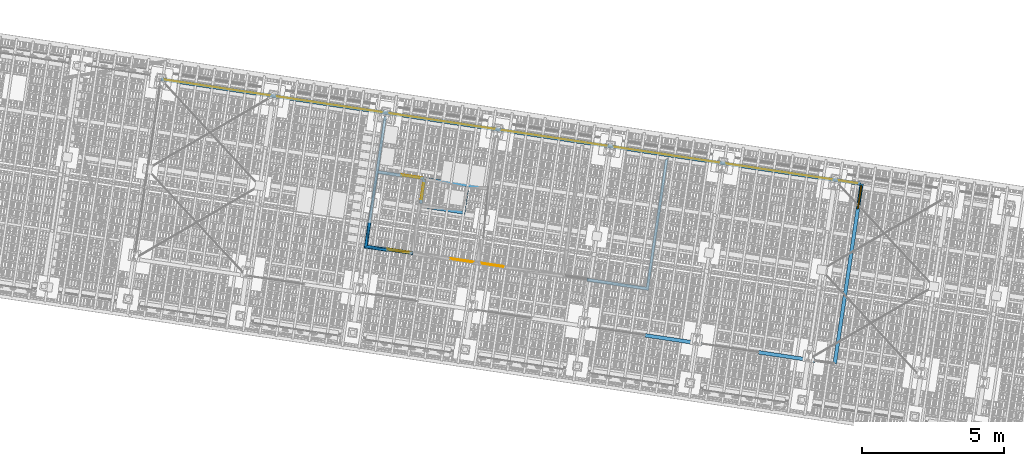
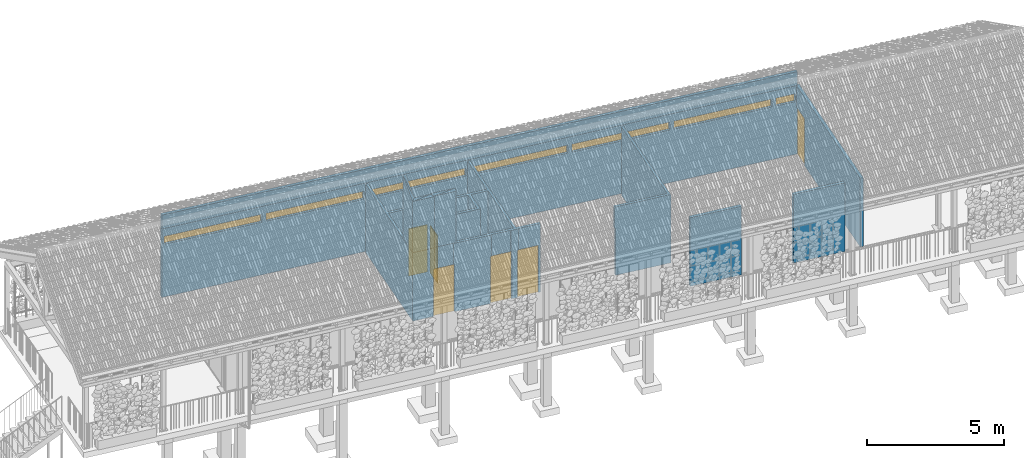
# One storey, part 122 of 131: 14 walls, 7 windows, 6 doors, 17 openings.
"""IFC4 building model written with IfcOpenShell, lengths in metres."""

from ifc_helpers import new_model, si_unit, direction, frame, origin_with_axes, place, context, subcontext, project, spatial, polyline, outline, extrude, polygons, material, layer, layer_set, constituent, constituent_set, element, fill, save


model = new_model("IFC4")

# Units and contexts
model_context = context("Model", 3, precision=1e-05, world=origin_with_axes(), true_north=direction((0.0, 1.0)))
body_context = subcontext(model_context, "Body", "Model", "MODEL_VIEW")
ifc_project = project(units=[si_unit("VOLUMEUNIT", "CUBIC_METRE"), si_unit("LENGTHUNIT", "METRE"), si_unit("AREAUNIT", "SQUARE_METRE")], contexts=[model_context])

# Site, building, storey
site_placement = place(None, origin_with_axes())
site = spatial("IfcSite", under=ifc_project, at=site_placement, Name="Lares · Rua das Mercês · artigo 4771")
building_placement = place(site_placement, frame((15.0, 9.7, 15.8), z_axis=(0.0, 0.0, 1.0), x_axis=(0.989015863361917, -0.147809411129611, 0.0)))
building = spatial("IfcBuilding", under=site, at=building_placement, Name="Casa Sobreposta")
storey_placement = place(building_placement, origin_with_axes())
storey = spatial("IfcBuildingStorey", under=building, at=storey_placement, Name="00 · Habitação e estacionamento", Elevation=15.8)

# Wall, openings, doors
ifc_material_1 = material(Name="OSB", Category="wood")
ifc_constituent_1 = constituent(ifc_material_1, Name="osb")
ifc_material_2 = material(Name="Lã mineral / Mineralwolle 2", Category="mineral wool")
ifc_constituent_2 = constituent(ifc_material_2, Name="wool")
ifc_constituent_set_1 = constituent_set(constituents=[ifc_constituent_1, ifc_constituent_2], Name="OSB22 / lã mineral / OSB22")
wall_1_placement = place(storey_placement, origin_with_axes())
wall_1 = element("IfcWall", 1, at=wall_1_placement, inside=storey, material=ifc_constituent_set_1, Name="Divisória 1 · OSB 22 mm nas duas faces", context=body_context, shape_type="SweptSolid", body=[
    extrude(outline(polyline([(8.05999999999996, 6.27299999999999), (8.05999999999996, 4.35299999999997), (8.80454037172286, 4.35299999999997), (8.80454322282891, 4.37255471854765), (9.67462900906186, 4.37242785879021), (9.67461809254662, 4.29755537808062), (9.74955631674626, 4.29756574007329), (9.74967661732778, 3.42754853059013), (9.63967661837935, 3.4275333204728), (9.63956117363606, 4.26243297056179), (8.90999999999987, 4.26253934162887), (8.90999999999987, 4.24299999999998), (8.05999999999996, 4.24299999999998), (8.05999999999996, 1.68999999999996), (8.70456930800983, 1.68999999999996), (8.70457262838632, 1.71008556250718), (9.6746647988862, 1.70992519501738), (9.67464661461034, 1.59992519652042), (8.80999999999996, 1.60006813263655), (8.80999999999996, 1.57999999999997), (7.96000000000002, 1.57999999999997), (7.96000000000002, 6.27299999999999), (8.05999999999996, 6.27299999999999)]), holes=[polyline([(7.98200000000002, 1.60199999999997), (8.78799999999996, 1.60199999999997), (8.78799999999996, 1.62207176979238), (9.65265025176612, 1.62192883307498), (9.65266116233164, 1.68792883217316), (8.72656899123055, 1.68808192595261), (8.72656567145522, 1.66799999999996), (8.03799999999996, 1.66799999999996), (8.03799999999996, 4.26499999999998), (8.88799999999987, 4.26499999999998), (8.88799999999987, 4.28454254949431), (9.65261617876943, 4.28443106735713), (9.65262580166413, 4.35043106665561), (8.8265400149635, 4.35055151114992), (8.82653716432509, 4.33099999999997), (8.03799999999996, 4.33099999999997), (8.03799999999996, 6.25099999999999), (7.98200000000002, 6.25099999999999), (7.98200000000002, 1.60199999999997)]), polyline([(9.66167357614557, 3.44953636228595), (9.72767357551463, 3.44954548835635), (9.72755935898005, 4.27556269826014), (9.661559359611, 4.27555357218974), (9.66167357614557, 3.44953636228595)])]), origin_with_axes(), (0.0, 0.0, 1.0), 3.05),
    extrude(outline(polyline([(7.98200000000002, 6.25099999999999), (8.03799999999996, 6.25099999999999), (8.03799999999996, 4.33099999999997), (8.82653716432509, 4.33099999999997), (8.8265400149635, 4.35055151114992), (9.65262580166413, 4.35043106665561), (9.65261617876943, 4.28443106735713), (8.88799999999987, 4.28454254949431), (8.88799999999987, 4.26499999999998), (8.03799999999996, 4.26499999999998), (8.03799999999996, 1.66799999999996), (8.72656567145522, 1.66799999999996), (8.72656899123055, 1.68808192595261), (9.65266116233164, 1.68792883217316), (9.65265025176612, 1.62192883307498), (8.78799999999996, 1.62207176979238), (8.78799999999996, 1.60199999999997), (7.98200000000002, 1.60199999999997), (7.98200000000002, 6.25099999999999)])), origin_with_axes(), (0.0, 0.0, 1.0), 3.05),
    extrude(outline(polyline([(9.661559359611, 4.27555357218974), (9.72755935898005, 4.27556269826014), (9.72767357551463, 3.44954548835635), (9.66167357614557, 3.44953636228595), (9.661559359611, 4.27555357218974)])), origin_with_axes(), (0.0, 0.0, 1.0), 3.05),
])
opening_1_placement = place(wall_1_placement, origin_with_axes())
opening_1 = element("IfcOpeningElement", 2, at=opening_1_placement, cuts=wall_1, PredefinedType="OPENING", context=body_context, shape_type="SweptSolid", body=[
    extrude(outline(polyline([(8.87451187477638, 4.15754451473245), (8.87455853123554, 4.47754451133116), (9.60464431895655, 4.4774380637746), (9.60459766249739, 4.15743806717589), (8.87451187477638, 4.15754451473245)])), origin_with_axes(), (0.0, 0.0, 1.0), 2.1),
])
opening_2_placement = place(wall_1_placement, origin_with_axes())
opening_2 = element("IfcOpeningElement", 3, at=opening_2_placement, cuts=wall_1, PredefinedType="OPENING", context=body_context, shape_type="SweptSolid", body=[
    extrude(outline(polyline([(8.77453708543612, 1.49507399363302), (8.77458998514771, 1.81507398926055), (9.60468215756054, 1.81493676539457), (9.60462925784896, 1.49493676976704), (8.77453708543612, 1.49507399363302)])), origin_with_axes(), (0.0, 0.0, 1.0), 2.1),
])
opening_3_placement = place(wall_1_placement, origin_with_axes())
opening_3 = element("IfcOpeningElement", 4, at=opening_3_placement, cuts=wall_1, PredefinedType="OPENING", context=body_context, shape_type="SweptSolid", body=[
    extrude(outline(polyline([(9.85466693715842, 3.49756304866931), (9.53466694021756, 3.49751880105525), (9.5345659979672, 4.22753601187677), (9.85456599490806, 4.22758025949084), (9.85466693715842, 3.49756304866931)])), origin_with_axes(), (0.0, 0.0, 1.0), 2.1),
])
door_1_placement = place(storey_placement, origin_with_axes())
door_1 = element("IfcDoor", 5, at=door_1_placement, inside=storey, material=ifc_material_1, Name="Porta interior 3", OperationType="SINGLE_SWING_LEFT", OverallHeight=2.1, OverallWidth=0.730085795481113, PredefinedType="DOOR", context=body_context, shape_type="SweptSolid", body=[
    extrude(outline(polyline([(8.87453265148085, 4.30004451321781), (8.87453775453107, 4.3350445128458), (9.60462354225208, 4.33493806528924), (9.60461843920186, 4.29993806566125), (8.87453265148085, 4.30004451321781)])), origin_with_axes(), (0.0, 0.0, 1.0), 2.1),
])
fill(opening_1, door_1)
door_2_placement = place(storey_placement, origin_with_axes())
door_2 = element("IfcDoor", 6, at=door_2_placement, inside=storey, material=ifc_material_1, Name="Porta interior 4", OperationType="SINGLE_SWING_LEFT", OverallHeight=2.1, OverallWidth=0.830092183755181, PredefinedType="DOOR", context=body_context, shape_type="SweptSolid", body=[
    extrude(outline(polyline([(8.77456064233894, 1.6375739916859), (8.7745664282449, 1.67257399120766), (9.60465860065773, 1.67243676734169), (9.60465281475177, 1.63743676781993), (8.77456064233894, 1.6375739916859)])), origin_with_axes(), (0.0, 0.0, 1.0), 2.1),
])
fill(opening_2, door_2)
door_3_placement = place(storey_placement, origin_with_axes())
door_3 = element("IfcDoor", 7, at=door_3_placement, inside=storey, material=ifc_material_1, Name="Porta interior 6", OperationType="SINGLE_SWING_LEFT", OverallHeight=2.1, OverallWidth=0.730017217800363, PredefinedType="DOOR", context=body_context, shape_type="SweptSolid", body=[
    extrude(outline(polyline([(9.71216693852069, 3.49754334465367), (9.67716693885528, 3.49753850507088), (9.67706599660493, 4.22755571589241), (9.71206599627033, 4.2275605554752), (9.71216693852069, 3.49754334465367)])), origin_with_axes(), (0.0, 0.0, 1.0), 2.1),
])
fill(opening_3, door_3)

ifc_constituent_3 = constituent(ifc_material_1, Name="osb")
ifc_constituent_4 = constituent(ifc_material_2, Name="wool")
ifc_constituent_set_2 = constituent_set(constituents=[ifc_constituent_3, ifc_constituent_4], Name="OSB22 / lã mineral / OSB22")
wall_2_placement = place(storey_placement, origin_with_axes())
wall_2 = element("IfcWall", 8, at=wall_2_placement, inside=storey, material=ifc_constituent_set_2, Name="Divisória 2 · OSB 22 mm nas duas faces", context=body_context, shape_type="SweptSolid", body=[
    extrude(outline(polyline([(9.72999999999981, 3.383), (11.1799999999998, 3.383), (11.1799999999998, 4.24299999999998), (9.72999999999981, 4.24299999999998), (9.72999999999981, 4.19299999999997), (9.61999999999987, 4.19299999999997), (9.61999999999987, 4.24299999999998), (9.56999999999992, 4.24299999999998), (9.56999999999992, 4.35299999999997), (11.96, 4.35299999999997), (11.96, 6.27299999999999), (12.06, 6.27299999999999), (12.06, 1.70993390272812), (12.9746138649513, 1.7100856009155), (12.974632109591, 1.60008560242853), (12.1099999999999, 1.59994219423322), (12.1099999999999, 1.57999999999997), (11.8099999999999, 1.57999999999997), (11.8099999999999, 1.59995696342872), (11.05, 1.60006879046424), (11.05, 1.57999999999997), (9.56999999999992, 1.57999999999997), (9.56999999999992, 1.68999999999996), (9.61999999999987, 1.68999999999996), (9.61999999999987, 3.53299999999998), (9.72999999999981, 3.53299999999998), (9.72999999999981, 3.383)]), holes=[polyline([(9.64199999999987, 3.51099999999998), (9.64199999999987, 1.66799999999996), (9.59199999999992, 1.66799999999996), (9.59199999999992, 1.60199999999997), (11.028, 1.60199999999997), (11.028, 1.62207202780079), (11.8319999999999, 1.62195372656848), (11.8319999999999, 1.60199999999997), (12.0879999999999, 1.60199999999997), (12.0879999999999, 1.62193854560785), (12.9526284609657, 1.62208195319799), (12.9526175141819, 1.68808195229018), (12.038, 1.68793025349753), (12.038, 6.25099999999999), (11.982, 6.25099999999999), (11.982, 4.33099999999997), (9.59199999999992, 4.33099999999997), (9.59199999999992, 4.26499999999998), (9.64199999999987, 4.26499999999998), (9.64199999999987, 4.21499999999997), (9.70799999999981, 4.21499999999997), (9.70799999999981, 4.26499999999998), (11.2019999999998, 4.26499999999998), (11.2019999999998, 3.361), (9.70799999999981, 3.361), (9.70799999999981, 3.51099999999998), (9.64199999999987, 3.51099999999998)])]), origin_with_axes(), (0.0, 0.0, 1.0), 3.05),
    extrude(outline(polyline([(10.9666589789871, 1.66799999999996), (9.70799999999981, 1.66799999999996), (9.70799999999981, 3.29500000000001), (11.268, 3.29500000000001), (11.268, 4.26499999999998), (11.982, 4.26499999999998), (11.982, 1.66799999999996), (11.892736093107, 1.66799999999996), (11.8927390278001, 1.68794479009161), (10.9666619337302, 1.68808105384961), (10.9666589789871, 1.66799999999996)]), holes=[polyline([(11.96, 4.24299999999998), (11.29, 4.24299999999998), (11.29, 3.27300000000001), (9.72999999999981, 3.27300000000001), (9.72999999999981, 1.68999999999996), (10.9446622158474, 1.68999999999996), (10.9446651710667, 1.71008429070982), (11.9147422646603, 1.70994155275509), (11.9147393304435, 1.68999999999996), (11.96, 1.68999999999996), (11.96, 4.24299999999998)])]), origin_with_axes(), (0.0, 0.0, 1.0), 3.05),
    extrude(outline(polyline([(9.70799999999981, 3.51099999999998), (9.70799999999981, 3.361), (11.2019999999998, 3.361), (11.2019999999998, 4.26499999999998), (9.70799999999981, 4.26499999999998), (9.70799999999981, 4.21499999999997), (9.64199999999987, 4.21499999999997), (9.64199999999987, 4.26499999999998), (9.59199999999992, 4.26499999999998), (9.59199999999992, 4.33099999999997), (11.982, 4.33099999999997), (11.982, 6.25099999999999), (12.038, 6.25099999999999), (12.038, 1.68793025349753), (12.9526175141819, 1.68808195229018), (12.9526284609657, 1.62208195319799), (12.0879999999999, 1.62193854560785), (12.0879999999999, 1.60199999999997), (11.8319999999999, 1.60199999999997), (11.8319999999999, 1.62195372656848), (11.028, 1.62207202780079), (11.028, 1.60199999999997), (9.59199999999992, 1.60199999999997), (9.59199999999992, 1.66799999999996), (9.64199999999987, 1.66799999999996), (9.64199999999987, 3.51099999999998), (9.70799999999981, 3.51099999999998)]), holes=[polyline([(10.9666619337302, 1.68808105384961), (11.8927390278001, 1.68794479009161), (11.892736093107, 1.66799999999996), (11.982, 1.66799999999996), (11.982, 4.26499999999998), (11.268, 4.26499999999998), (11.268, 3.29500000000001), (9.70799999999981, 3.29500000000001), (9.70799999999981, 1.66799999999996), (10.9666589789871, 1.66799999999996), (10.9666619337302, 1.68808105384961)])]), origin_with_axes(), (0.0, 0.0, 1.0), 3.05),
])
opening_4_placement = place(wall_2_placement, origin_with_axes())
opening_4 = element("IfcOpeningElement", 9, at=opening_4_placement, cuts=wall_2, PredefinedType="OPENING", context=body_context, shape_type="SweptSolid", body=[
    extrude(outline(polyline([(12.9045964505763, 1.81507398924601), (12.9046495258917, 1.49507399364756), (12.0745568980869, 1.49493631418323), (12.0745038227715, 1.81493630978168), (12.9045964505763, 1.81507398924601)])), origin_with_axes(), (0.0, 0.0, 1.0), 2.1),
])
opening_5_placement = place(wall_2_placement, origin_with_axes())
element("IfcOpeningElement", 10, at=opening_5_placement, cuts=wall_2, PredefinedType="OPENING", context=body_context, shape_type="SweptSolid", body=[
    extrude(outline(polyline([(8.87451187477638, 4.15754451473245), (8.87455853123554, 4.47754451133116), (9.60464431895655, 4.4774380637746), (9.60459766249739, 4.15743806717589), (8.87451187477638, 4.15754451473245)])), origin_with_axes(), (0.0, 0.0, 1.0), 2.1),
])
opening_6_placement = place(wall_2_placement, origin_with_axes())
element("IfcOpeningElement", 11, at=opening_6_placement, cuts=wall_2, PredefinedType="OPENING", context=body_context, shape_type="SweptSolid", body=[
    extrude(outline(polyline([(8.77453708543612, 1.49507399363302), (8.77458998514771, 1.81507398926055), (9.60468215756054, 1.81493676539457), (9.60462925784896, 1.49493676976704), (8.77453708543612, 1.49507399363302)])), origin_with_axes(), (0.0, 0.0, 1.0), 2.1),
])
opening_7_placement = place(wall_2_placement, origin_with_axes())
opening_7 = element("IfcOpeningElement", 12, at=opening_7_placement, cuts=wall_2, Name="Vão porta interior 5.1", PredefinedType="OPENING", context=body_context, shape_type="SweptSolid", body=[
    extrude(outline(polyline([(11.0146335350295, 1.49507399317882), (11.0146806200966, 1.81507398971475), (11.8447577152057, 1.81495185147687), (11.8447106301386, 1.49495185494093), (11.0146335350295, 1.49507399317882)])), origin_with_axes(), (0.0, 0.0, 1.0), 2.1),
])
opening_8_placement = place(wall_2_placement, origin_with_axes())
element("IfcOpeningElement", 13, at=opening_8_placement, cuts=wall_2, PredefinedType="OPENING", context=body_context, shape_type="SweptSolid", body=[
    extrude(outline(polyline([(9.85466693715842, 3.49756304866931), (9.53466694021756, 3.49751880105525), (9.5345659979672, 4.22753601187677), (9.85456599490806, 4.22758025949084), (9.85466693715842, 3.49756304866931)])), origin_with_axes(), (0.0, 0.0, 1.0), 2.1),
])
door_4_placement = place(storey_placement, origin_with_axes())
door_4 = element("IfcDoor", 14, at=door_4_placement, inside=storey, material=ifc_material_1, Name="Porta interior 2", OperationType="SINGLE_SWING_LEFT", OverallHeight=2.1, OverallWidth=0.830092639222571, PredefinedType="DOOR", context=body_context, shape_type="SweptSolid", body=[
    extrude(outline(polyline([(12.9046200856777, 1.67257399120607), (12.9046258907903, 1.63757399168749), (12.0745332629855, 1.63743631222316), (12.0745274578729, 1.67243631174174), (12.9046200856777, 1.67257399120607)])), origin_with_axes(), (0.0, 0.0, 1.0), 2.1),
])
fill(opening_4, door_4)
door_5_placement = place(storey_placement, origin_with_axes())
door_5 = element("IfcDoor", 15, at=door_5_placement, inside=storey, material=ifc_material_1, Name="Porta interior 5", OperationType="SINGLE_SWING_LEFT", OverallHeight=2.1, OverallWidth=0.830077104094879, PredefinedType="DOOR", context=body_context, shape_type="SweptSolid", body=[
    extrude(outline(polyline([(11.0146545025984, 1.63757399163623), (11.0146596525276, 1.67257399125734), (11.8447367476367, 1.67245185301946), (11.8447315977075, 1.63745185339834), (11.0146545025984, 1.63757399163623)])), origin_with_axes(), (0.0, 0.0, 1.0), 2.1),
])
fill(opening_7, door_5)

# Wall, opening
ifc_constituent_5 = constituent(ifc_material_1, Name="osb")
ifc_constituent_6 = constituent(ifc_material_2, Name="wool")
ifc_constituent_set_3 = constituent_set(constituents=[ifc_constituent_5, ifc_constituent_6], Name="OSB22 / lã mineral / OSB22")
wall_3_placement = place(storey_placement, origin_with_axes())
wall_3 = element("IfcWall", 16, at=wall_3_placement, inside=storey, material=ifc_constituent_set_3, Name="Divisória 4 · OSB 22 mm nas duas faces", context=body_context, shape_type="SweptSolid", body=[
    extrude(outline(polyline([(17.98, 6.21236749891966), (18.0799999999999, 6.29570083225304), (18.0799999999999, 1.57999999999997), (15.8799999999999, 1.57999999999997), (15.8799999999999, 1.68999999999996), (17.98, 1.68999999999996), (17.98, 6.21236749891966)]), holes=[polyline([(15.9019999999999, 1.66799999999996), (15.9019999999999, 1.60199999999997), (18.0579999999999, 1.60199999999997), (18.0579999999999, 6.24872991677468), (18.002, 6.202063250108), (18.002, 1.66799999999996), (15.9019999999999, 1.66799999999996)])]), origin_with_axes(), (0.0, 0.0, 1.0), 3.05),
    extrude(outline(polyline([(18.002, 1.66799999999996), (18.002, 6.202063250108), (18.0579999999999, 6.24872991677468), (18.0579999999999, 1.60199999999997), (15.9019999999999, 1.60199999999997), (15.9019999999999, 1.66799999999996), (18.002, 1.66799999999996)])), origin_with_axes(), (0.0, 0.0, 1.0), 3.05),
])
opening_9_placement = place(wall_3_placement, origin_with_axes())
element("IfcOpeningElement", 17, at=opening_9_placement, cuts=wall_3, PredefinedType="OPENING", context=body_context, shape_type="SweptSolid", body=[
    extrude(outline(polyline([(15.9146091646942, 1.81507398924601), (15.9146622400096, 1.49507399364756), (15.0845696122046, 1.49493631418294), (15.0845165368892, 1.8149363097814), (15.9146091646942, 1.81507398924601)])), origin_with_axes(), (0.0, 0.0, 1.0), 2.1),
])

# Wall, openings, windows
ifc_material_3 = material(Name="Aço pintado / Stahl lackiert", Category="steel")
ifc_layer_1 = layer(ifc_material_3, 0.005, Name="steel")
ifc_layer_2 = layer(ifc_material_2, 0.12, Name="wool")
ifc_layer_3 = layer(ifc_material_3, 0.00516, Name="steel")
ifc_layer_set_1 = layer_set([ifc_layer_1, ifc_layer_2, ifc_layer_3], Name="Casa DFL sandwich · 130.16 mm")
wall_4_placement = place(storey_placement, origin_with_axes())
wall_4 = element("IfcWall", 18, at=wall_4_placement, inside=storey, material=ifc_layer_set_1, Name="Fachada norte · sandwich Casa DFL", context=body_context, shape_type="SweptSolid", body=[
    extrude(outline(polyline([(24.92, 6.46508), (24.92, 6.33492), (0.0, 6.33492), (0.0, 6.46508), (24.92, 6.46508)])), origin_with_axes(), (0.0, 0.0, 1.0), 3.05),
])
opening_10_placement = place(wall_4_placement, frame((0.0, 0.0, 2.35), z_axis=(0.0, 0.0, 1.0), x_axis=(1.0, 0.0, 0.0)))
opening_10 = element("IfcOpeningElement", 19, at=opening_10_placement, cuts=wall_4, Name="Vão rasgo norte 1", PredefinedType="OPENING", context=body_context, shape_type="SweptSolid", body=[
    extrude(outline(polyline([(3.92, 6.6), (3.92, 6.2), (0.08, 6.2), (0.08, 6.6), (3.92, 6.6)])), origin_with_axes(), (0.0, 0.0, 1.0), 0.35),
])
opening_11_placement = place(wall_4_placement, frame((0.0, 0.0, 2.35), z_axis=(0.0, 0.0, 1.0), x_axis=(1.0, 0.0, 0.0)))
opening_11 = element("IfcOpeningElement", 20, at=opening_11_placement, cuts=wall_4, Name="Vão rasgo norte 2", PredefinedType="OPENING", context=body_context, shape_type="SweptSolid", body=[
    extrude(outline(polyline([(7.92, 6.6), (7.92, 6.2), (4.08, 6.2), (4.08, 6.6), (7.92, 6.6)])), origin_with_axes(), (0.0, 0.0, 1.0), 0.35),
])
opening_12_placement = place(wall_4_placement, frame((0.0, 0.0, 2.35), z_axis=(0.0, 0.0, 1.0), x_axis=(1.0, 0.0, 0.0)))
opening_12 = element("IfcOpeningElement", 21, at=opening_12_placement, cuts=wall_4, Name="Vão rasgo norte 3", PredefinedType="OPENING", context=body_context, shape_type="SweptSolid", body=[
    extrude(outline(polyline([(11.92, 6.6), (11.92, 6.2), (8.08, 6.2), (8.08, 6.6), (11.92, 6.6)])), origin_with_axes(), (0.0, 0.0, 1.0), 0.35),
])
opening_13_placement = place(wall_4_placement, frame((0.0, 0.0, 2.35), z_axis=(0.0, 0.0, 1.0), x_axis=(1.0, 0.0, 0.0)))
opening_13 = element("IfcOpeningElement", 22, at=opening_13_placement, cuts=wall_4, Name="Vão rasgo norte 4", PredefinedType="OPENING", context=body_context, shape_type="SweptSolid", body=[
    extrude(outline(polyline([(15.92, 6.6), (15.92, 6.2), (12.08, 6.2), (12.08, 6.6), (15.92, 6.6)])), origin_with_axes(), (0.0, 0.0, 1.0), 0.35),
])
opening_14_placement = place(wall_4_placement, frame((0.0, 0.0, 2.35), z_axis=(0.0, 0.0, 1.0), x_axis=(1.0, 0.0, 0.0)))
opening_14 = element("IfcOpeningElement", 23, at=opening_14_placement, cuts=wall_4, Name="Vão rasgo norte 5", PredefinedType="OPENING", context=body_context, shape_type="SweptSolid", body=[
    extrude(outline(polyline([(19.92, 6.6), (19.92, 6.2), (16.08, 6.2), (16.08, 6.6), (19.92, 6.6)])), origin_with_axes(), (0.0, 0.0, 1.0), 0.35),
])
opening_15_placement = place(wall_4_placement, frame((0.0, 0.0, 2.35), z_axis=(0.0, 0.0, 1.0), x_axis=(1.0, 0.0, 0.0)))
opening_15 = element("IfcOpeningElement", 24, at=opening_15_placement, cuts=wall_4, Name="Vão rasgo norte 6", PredefinedType="OPENING", context=body_context, shape_type="SweptSolid", body=[
    extrude(outline(polyline([(23.92, 6.6), (23.92, 6.2), (20.08, 6.2), (20.08, 6.6), (23.92, 6.6)])), origin_with_axes(), (0.0, 0.0, 1.0), 0.35),
])
opening_16_placement = place(wall_4_placement, frame((0.0, 0.0, 2.35), z_axis=(0.0, 0.0, 1.0), x_axis=(1.0, 0.0, 0.0)))
opening_16 = element("IfcOpeningElement", 25, at=opening_16_placement, cuts=wall_4, Name="Vão rasgo norte 7", PredefinedType="OPENING", context=body_context, shape_type="SweptSolid", body=[
    extrude(outline(polyline([(24.84, 6.6), (24.84, 6.2), (24.08, 6.2), (24.08, 6.6), (24.84, 6.6)])), origin_with_axes(), (0.0, 0.0, 1.0), 0.35),
])
ifc_material_4 = material(Name="Vidro / Normalglas", Category="glass")
window_1_placement = place(storey_placement, frame((0.0, 0.0, 2.375), z_axis=(0.0, 0.0, 1.0), x_axis=(1.0, 0.0, 0.0)))
window_1 = element("IfcWindow", 26, at=window_1_placement, inside=storey, material=ifc_material_4, Name="Rasgo norte 1", OverallHeight=0.3, OverallWidth=3.79, PartitioningType="SINGLE_PANEL", PredefinedType="WINDOW", context=body_context, shape_type="SweptSolid", body=[
    extrude(outline(polyline([(3.895, 6.404), (3.895, 6.396), (0.105, 6.396), (0.105, 6.404), (3.895, 6.404)])), origin_with_axes(), (0.0, 0.0, 1.0), 0.3),
])
fill(opening_10, window_1)
window_2_placement = place(storey_placement, frame((0.0, 0.0, 2.375), z_axis=(0.0, 0.0, 1.0), x_axis=(1.0, 0.0, 0.0)))
window_2 = element("IfcWindow", 27, at=window_2_placement, inside=storey, material=ifc_material_4, Name="Rasgo norte 2", OverallHeight=0.3, OverallWidth=3.79, PartitioningType="SINGLE_PANEL", PredefinedType="WINDOW", context=body_context, shape_type="SweptSolid", body=[
    extrude(outline(polyline([(7.895, 6.404), (7.895, 6.396), (4.105, 6.396), (4.105, 6.404), (7.895, 6.404)])), origin_with_axes(), (0.0, 0.0, 1.0), 0.3),
])
fill(opening_11, window_2)
window_3_placement = place(storey_placement, frame((0.0, 0.0, 2.375), z_axis=(0.0, 0.0, 1.0), x_axis=(1.0, 0.0, 0.0)))
window_3 = element("IfcWindow", 28, at=window_3_placement, inside=storey, material=ifc_material_4, Name="Rasgo norte 3", OverallHeight=0.3, OverallWidth=3.79, PartitioningType="SINGLE_PANEL", PredefinedType="WINDOW", context=body_context, shape_type="SweptSolid", body=[
    extrude(outline(polyline([(11.895, 6.404), (11.895, 6.396), (8.105, 6.396), (8.105, 6.404), (11.895, 6.404)])), origin_with_axes(), (0.0, 0.0, 1.0), 0.3),
])
fill(opening_12, window_3)
window_4_placement = place(storey_placement, frame((0.0, 0.0, 2.375), z_axis=(0.0, 0.0, 1.0), x_axis=(1.0, 0.0, 0.0)))
window_4 = element("IfcWindow", 29, at=window_4_placement, inside=storey, material=ifc_material_4, Name="Rasgo norte 4", OverallHeight=0.3, OverallWidth=3.79, PartitioningType="SINGLE_PANEL", PredefinedType="WINDOW", context=body_context, shape_type="SweptSolid", body=[
    extrude(outline(polyline([(15.895, 6.404), (15.895, 6.396), (12.105, 6.396), (12.105, 6.404), (15.895, 6.404)])), origin_with_axes(), (0.0, 0.0, 1.0), 0.3),
])
fill(opening_13, window_4)
window_5_placement = place(storey_placement, frame((0.0, 0.0, 2.375), z_axis=(0.0, 0.0, 1.0), x_axis=(1.0, 0.0, 0.0)))
window_5 = element("IfcWindow", 30, at=window_5_placement, inside=storey, material=ifc_material_4, Name="Rasgo norte 5", OverallHeight=0.3, OverallWidth=3.79, PartitioningType="SINGLE_PANEL", PredefinedType="WINDOW", context=body_context, shape_type="SweptSolid", body=[
    extrude(outline(polyline([(19.895, 6.404), (19.895, 6.396), (16.105, 6.396), (16.105, 6.404), (19.895, 6.404)])), origin_with_axes(), (0.0, 0.0, 1.0), 0.3),
])
fill(opening_14, window_5)
window_6_placement = place(storey_placement, frame((0.0, 0.0, 2.375), z_axis=(0.0, 0.0, 1.0), x_axis=(1.0, 0.0, 0.0)))
window_6 = element("IfcWindow", 31, at=window_6_placement, inside=storey, material=ifc_material_4, Name="Rasgo norte 6", OverallHeight=0.3, OverallWidth=3.79, PartitioningType="SINGLE_PANEL", PredefinedType="WINDOW", context=body_context, shape_type="SweptSolid", body=[
    extrude(outline(polyline([(23.895, 6.404), (23.895, 6.396), (20.105, 6.396), (20.105, 6.404), (23.895, 6.404)])), origin_with_axes(), (0.0, 0.0, 1.0), 0.3),
])
fill(opening_15, window_6)
window_7_placement = place(storey_placement, frame((0.0, 0.0, 2.375), z_axis=(0.0, 0.0, 1.0), x_axis=(1.0, 0.0, 0.0)))
window_7 = element("IfcWindow", 32, at=window_7_placement, inside=storey, material=ifc_material_4, Name="Rasgo norte 7", OverallHeight=0.3, OverallWidth=0.710000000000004, PartitioningType="SINGLE_PANEL", PredefinedType="WINDOW", context=body_context, shape_type="SweptSolid", body=[
    extrude(outline(polyline([(24.815, 6.404), (24.815, 6.396), (24.105, 6.396), (24.105, 6.404), (24.815, 6.404)])), origin_with_axes(), (0.0, 0.0, 1.0), 0.3),
])
fill(opening_16, window_7)

# Wall, opening, door
ifc_layer_4 = layer(ifc_material_3, 0.005, Name="steel")
ifc_layer_5 = layer(ifc_material_2, 0.12, Name="wool")
ifc_layer_6 = layer(ifc_material_3, 0.00516, Name="steel")
ifc_layer_set_2 = layer_set([ifc_layer_4, ifc_layer_5, ifc_layer_6], Name="Casa DFL sandwich · 130.16 mm")
wall_5_placement = place(storey_placement, origin_with_axes())
wall_5 = element("IfcWall", 33, at=wall_5_placement, inside=storey, material=ifc_layer_set_2, Name="Separação do estacionamento", context=body_context, shape_type="SweptSolid", body=[
    extrude(outline(polyline([(24.87992, 6.4), (25.01008, 6.4), (25.01008, 0.0), (24.87992, 0.0), (24.87992, 6.4)])), origin_with_axes(), (0.0, 0.0, 1.0), 3.05),
])
opening_17_placement = place(wall_5_placement, origin_with_axes())
opening_17 = element("IfcOpeningElement", 34, at=opening_17_placement, cuts=wall_5, Name="Vão de acesso do estacionamento", PredefinedType="OPENING", context=body_context, shape_type="SweptSolid", body=[
    extrude(outline(polyline([(24.745, 6.34), (25.145, 6.34), (25.145, 5.51), (24.745, 5.51), (24.745, 6.34)])), origin_with_axes(), (0.0, 0.0, 1.0), 2.1),
])
door_6_placement = place(storey_placement, origin_with_axes())
door_6 = element("IfcDoor", 35, at=door_6_placement, inside=storey, material=ifc_material_3, Name="Porta do estacionamento", OperationType="SINGLE_SWING_LEFT", OverallHeight=2.1, OverallWidth=0.83, PredefinedType="DOOR", context=body_context, shape_type="SweptSolid", body=[
    extrude(outline(polyline([(24.925, 6.34), (24.965, 6.34), (24.965, 5.51), (24.925, 5.51), (24.925, 6.34)])), origin_with_axes(), (0.0, 0.0, 1.0), 2.1),
])
fill(opening_17, door_6)

# Walls
ifc_layer_7 = layer(ifc_material_3, 0.005, Name="steel")
ifc_layer_8 = layer(ifc_material_2, 0.12, Name="wool")
ifc_layer_9 = layer(ifc_material_3, 0.00516, Name="steel")
ifc_layer_set_3 = layer_set([ifc_layer_7, ifc_layer_8, ifc_layer_9], Name="Casa DFL sandwich · 130.16 mm")
wall_6_placement = place(storey_placement, origin_with_axes())
element("IfcWall", 36, at=wall_6_placement, inside=storey, material=ifc_layer_set_3, Name="Painel opaco sul 9", context=body_context, shape_type="SweptSolid", body=[
    extrude(outline(polyline([(20.2133333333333, 0.06508), (20.2133333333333, -0.06508), (18.192, -0.06508), (18.192, 0.06508), (20.2133333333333, 0.06508)])), origin_with_axes(), (0.0, 0.0, 1.0), 3.05),
])
ifc_layer_10 = layer(ifc_material_3, 0.005, Name="steel")
ifc_layer_11 = layer(ifc_material_2, 0.12, Name="wool")
ifc_layer_12 = layer(ifc_material_3, 0.00516, Name="steel")
ifc_layer_set_4 = layer_set([ifc_layer_10, ifc_layer_11, ifc_layer_12], Name="Casa DFL sandwich · 130.16 mm")
wall_7_placement = place(storey_placement, origin_with_axes())
element("IfcWall", 37, at=wall_7_placement, inside=storey, material=ifc_layer_set_4, Name="Painel opaco sul 11", context=body_context, shape_type="SweptSolid", body=[
    extrude(outline(polyline([(24.256, 0.06508), (24.256, -0.06508), (22.2346666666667, -0.06508), (22.2346666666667, 0.06508), (24.256, 0.06508)])), origin_with_axes(), (0.0, 0.0, 1.0), 3.05),
])
ifc_material_5 = material(Name="Madeira / Bauholz", Category="wood")
wall_8_placement = place(storey_placement, frame((0.0, 0.0, 3.05), z_axis=(0.0, 0.0, 1.0), x_axis=(1.0, 0.0, 0.0)))
element("IfcWall", 38, at=wall_8_placement, inside=storey, material=ifc_material_5, Name="Fachada · remate sob frechal", context=body_context, shape_type="SweptSolid", body=[
    extrude(outline(polyline([(24.92, 6.465), (24.92, 6.335), (0.0, 6.335), (0.0, 6.465), (24.92, 6.465)])), origin_with_axes(), (0.0, 0.0, 1.0), 0.616410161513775),
])
wall_9_placement = place(storey_placement, origin_with_axes())
element("IfcWall", 39, at=wall_9_placement, inside=storey, material=ifc_material_1, Name="Divisória · prolongamento até ao forro", context=body_context, shape_type="Tessellation", body=[
    polygons([(7.96000000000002, 2.55, 3.05), (7.96000000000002, 1.57999999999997, 3.05), (8.05999999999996, 1.68999999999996, 3.05), (7.96000000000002, 2.55, 5.88920869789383), (7.96000000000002, 1.57999999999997, 5.32917893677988), (8.05999999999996, 1.68999999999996, 5.39268746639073)], [[[3, 2, 1]], [[4, 5, 6]], [[1, 2, 5, 4]], [[2, 3, 6, 5]], [[3, 1, 4, 6]]]),
])
wall_10_placement = place(storey_placement, origin_with_axes())
element("IfcWall", 40, at=wall_10_placement, inside=storey, material=ifc_material_1, Name="Divisória · prolongamento até ao forro", context=body_context, shape_type="Tessellation", body=[
    polygons([(7.96000000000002, 2.55, 3.05), (8.05999999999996, 1.68999999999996, 3.05), (8.05999999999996, 2.55, 3.05), (7.96000000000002, 2.55, 5.88920869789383), (8.05999999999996, 1.68999999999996, 5.39268746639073), (8.05999999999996, 2.55, 5.88920869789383)], [[[3, 2, 1]], [[4, 5, 6]], [[1, 2, 5, 4]], [[2, 3, 6, 5]], [[3, 1, 4, 6]]]),
])
wall_11_placement = place(storey_placement, origin_with_axes())
element("IfcWall", 41, at=wall_11_placement, inside=storey, material=ifc_material_1, Name="Divisória · prolongamento até ao forro", context=body_context, shape_type="Tessellation", body=[
    polygons([(9.6746647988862, 1.70992519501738, 3.05), (8.70457262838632, 1.71008556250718, 3.05), (8.80999999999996, 1.60006813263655, 3.05), (9.6746647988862, 1.70992519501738, 5.4041912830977), (8.70457262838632, 1.71008556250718, 5.4042838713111), (8.80999999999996, 1.60006813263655, 5.34076527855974)], [[[3, 2, 1]], [[4, 5, 6]], [[1, 2, 5, 4]], [[2, 3, 6, 5]], [[3, 1, 4, 6]]]),
])
wall_12_placement = place(storey_placement, origin_with_axes())
element("IfcWall", 42, at=wall_12_placement, inside=storey, material=ifc_material_1, Name="Divisória · prolongamento até ao forro", context=body_context, shape_type="Tessellation", body=[
    polygons([(9.6746647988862, 1.70992519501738, 3.05), (8.80999999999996, 1.60006813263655, 3.05), (9.67464661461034, 1.59992519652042, 3.05), (9.6746647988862, 1.70992519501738, 5.4041912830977), (8.80999999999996, 1.60006813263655, 5.34076527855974), (9.67464661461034, 1.59992519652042, 5.34068275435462)], [[[3, 2, 1]], [[4, 5, 6]], [[1, 2, 5, 4]], [[2, 3, 6, 5]], [[3, 1, 4, 6]]]),
])
wall_13_placement = place(storey_placement, origin_with_axes())
element("IfcWall", 43, at=wall_13_placement, inside=storey, material=ifc_material_1, Name="Divisória · prolongamento até ao forro", context=body_context, shape_type="Tessellation", body=[
    polygons([(8.80999999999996, 1.57999999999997, 3.05), (8.70456930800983, 1.68999999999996, 3.05), (7.96000000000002, 1.57999999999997, 3.05), (8.80999999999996, 1.57999999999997, 5.32917893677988), (8.70456930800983, 1.68999999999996, 5.39268746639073), (7.96000000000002, 1.57999999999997, 5.32917893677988)], [[[3, 2, 1]], [[4, 5, 6]], [[1, 2, 5, 4]], [[2, 3, 6, 5]], [[3, 1, 4, 6]]]),
])
wall_14_placement = place(storey_placement, origin_with_axes())
element("IfcWall", 44, at=wall_14_placement, inside=storey, material=ifc_material_1, Name="Divisória · prolongamento até ao forro", context=body_context, shape_type="Tessellation", body=[
    polygons([(7.96000000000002, 1.57999999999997, 3.05), (8.70456930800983, 1.68999999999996, 3.05), (8.05999999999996, 1.68999999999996, 3.05), (7.96000000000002, 1.57999999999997, 5.32917893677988), (8.70456930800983, 1.68999999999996, 5.39268746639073), (8.05999999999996, 1.68999999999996, 5.39268746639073)], [[[3, 2, 1]], [[4, 5, 6]], [[1, 2, 5, 4]], [[2, 3, 6, 5]], [[3, 1, 4, 6]]]),
])

save(model, "model.ifc")
